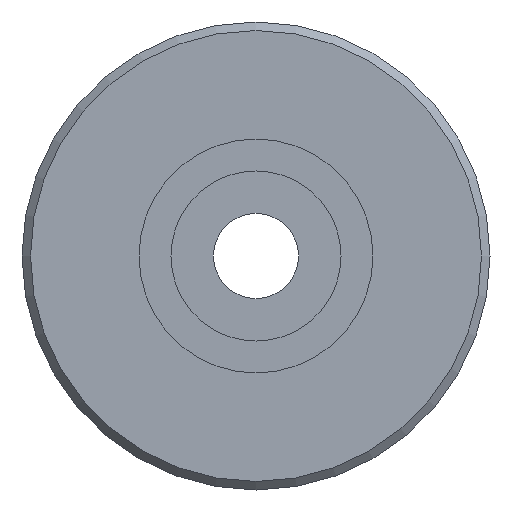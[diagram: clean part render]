
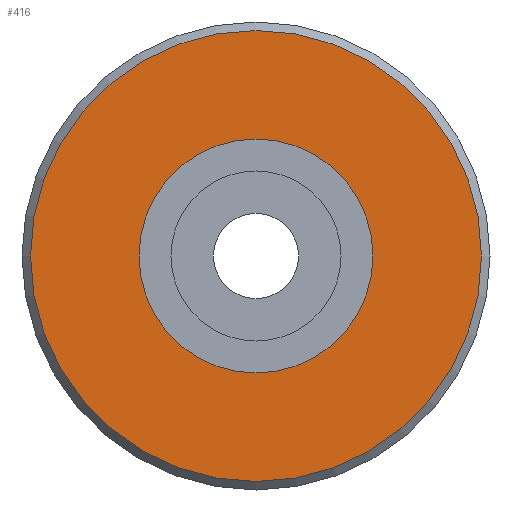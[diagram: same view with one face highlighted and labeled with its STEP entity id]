
A CAD part, left-side view. The second image highlights one B-rep face of the part: STEP entity #416.
In plain terms, the highlighted planar face has unit normal (-1, 0, 0).
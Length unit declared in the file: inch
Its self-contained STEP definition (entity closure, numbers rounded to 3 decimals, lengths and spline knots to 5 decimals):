
#389=CARTESIAN_POINT('',(11.,17.3,0.));
#390=VERTEX_POINT('',#389);
#391=CARTESIAN_POINT('',(11.,12.,0.));
#392=DIRECTION('',(-1.,0.,0.));
#393=DIRECTION('',(0.,1.,0.));
#394=AXIS2_PLACEMENT_3D('',#391,#392,#393);
#395=CIRCLE('',#394,5.3);
#396=EDGE_CURVE('',#390,#390,#395,.T.);
#397=ORIENTED_EDGE('',*,*,#396,.T.);
#398=EDGE_LOOP('',(#397));
#399=FACE_OUTER_BOUND('',#398,.T.);
#400=CARTESIAN_POINT('',(11.,14.75,0.));
#401=VERTEX_POINT('',#400);
#402=CARTESIAN_POINT('',(11.,12.,0.));
#403=DIRECTION('',(-1.,0.,0.));
#404=DIRECTION('',(0.,1.,0.));
#405=AXIS2_PLACEMENT_3D('',#402,#403,#404);
#406=CIRCLE('',#405,2.75);
#407=EDGE_CURVE('',#401,#401,#406,.T.);
#408=ORIENTED_EDGE('',*,*,#407,.F.);
#409=EDGE_LOOP('',(#408));
#410=FACE_BOUND('',#409,.T.);
#411=CARTESIAN_POINT('',(11.,16.025,0.));
#412=DIRECTION('',(-1.,0.,0.));
#413=DIRECTION('',(0.,1.,0.));
#414=AXIS2_PLACEMENT_3D('',#411,#412,#413);
#415=PLANE('',#414);
#416=ADVANCED_FACE('',(#399,#410),#415,.T.);
